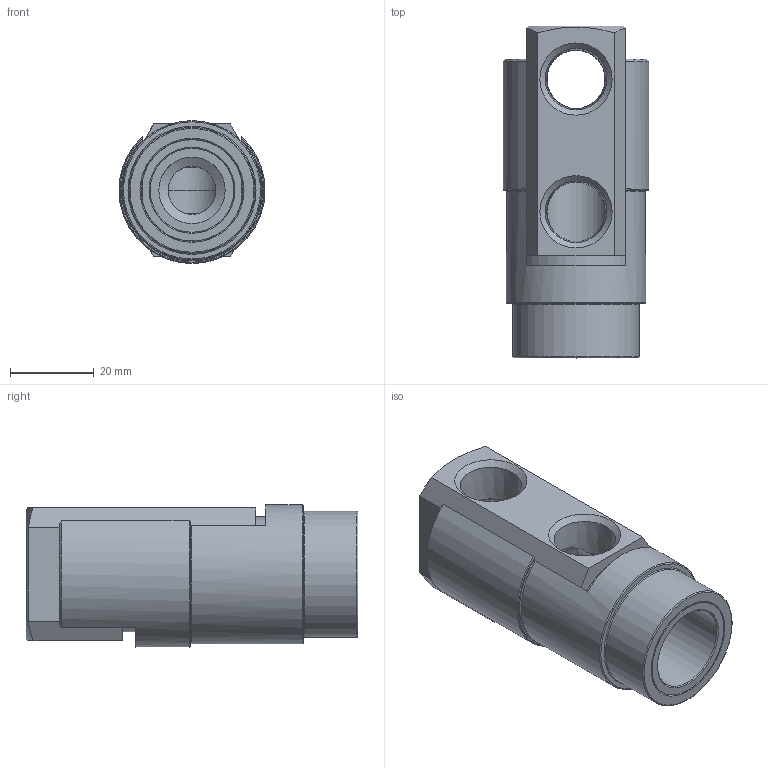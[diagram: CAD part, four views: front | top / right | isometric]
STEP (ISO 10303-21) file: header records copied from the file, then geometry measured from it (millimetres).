
FILE_DESCRIPTION(/* description */ (''),/* implementation_level */ '2;1');
FILE_NAME(/* name */ 'C:/Users/drich/Desktop/SC121H-6 v1.step',/* time_stamp */ '2020-01-04T15:15:08-06:00',/* author */ (''),/* organization */ (''),/* preprocessor_version */ 'ST-DEVELOPER v18',/* originating_system */ 'Autodesk Translation Framework v8.12.0.6',/* authorisation */ '');
FILE_SCHEMA (('AUTOMOTIVE_DESIGN { 1 0 10303 214 3 1 1 }'));
Length unit declared in the file: inch
Products named in the file (3): SC121H-6; SC121H-6 HEAD; SC121H-6 Sleeve
Assembly tree (2 placements, depth 2):
  SC121H-6
    SC121H-6 HEAD
    SC121H-6 Sleeve
Bounding box: 34.92 x 79.38 x 34.12 mm (x, y, z)
Volume: 44453.4 mm3; surface area: 24265.7 mm2
Topology: 2 solids, 2 shells, 71 faces, 210 edges, 143 vertices
Faces by surface type: plane 34, cylinder 17, cone 14, torus 6
Full cylindrical faces by diameter (mm): 11.468 x1, 15.875 x1, 20.066 x1, 24.384 x1, 27.432 x1, 30.15 x1, 33.325 x1
Entity records: 2643 total; most frequent: CARTESIAN_POINT 623, ORIENTED_EDGE 420, DIRECTION 414, EDGE_CURVE 210, AXIS2_PLACEMENT_3D 163, VERTEX_POINT 143, LINE 88, VECTOR 88
